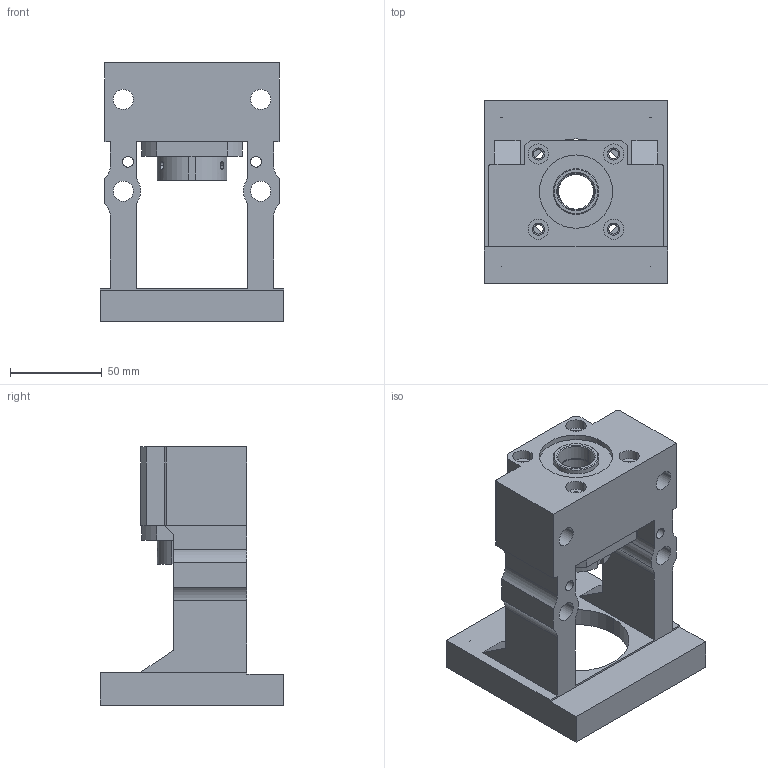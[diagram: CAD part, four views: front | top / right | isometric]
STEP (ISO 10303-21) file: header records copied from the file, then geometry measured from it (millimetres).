
FILE_DESCRIPTION((''),'2;1');
FILE_NAME('M100YP-AK20-C_ASM','2019-12-30T',('ASUS'),(''),'PRO/ENGINEER BY PARAMETRIC TECHNOLOGY CORPORATION, 2010280','PRO/ENGINEER BY PARAMETRIC TECHNOLOGY CORPORATION, 2010280','');
FILE_SCHEMA(('CONFIG_CONTROL_DESIGN'));
Length unit declared in the file: millimetre
Products named in the file (8): PRT0006; PRT0007; PRT0008; PRT0009; M100Y-AK20C_ASM_ASM_ASM; M100Y-AK20-C_ASM_ASM_ASM; ASM0003_ASM; M100YP-AK20-C_ASM
Assembly tree (8 placements, depth 5):
  M100YP-AK20-C_ASM
    ASM0003_ASM
      M100Y-AK20-C_ASM_ASM_ASM
        M100Y-AK20C_ASM_ASM_ASM
          PRT0006
          PRT0007
          PRT0008  x2
          PRT0009
Bounding box: 100 x 100 x 141 mm (x, y, z)
Volume: 384765.8 mm3; surface area: 95593.7 mm2
Topology: 5 solids, 9 shells, 225 faces, 596 edges, 397 vertices
Faces by surface type: cylinder 117, plane 80, cone 28
Entity records: 7255 total; most frequent: CARTESIAN_POINT 1446, DIRECTION 1275, ORIENTED_EDGE 1104, EDGE_CURVE 560, AXIS2_PLACEMENT_3D 499, VERTEX_POINT 381, EDGE_LOOP 281, VECTOR 277
